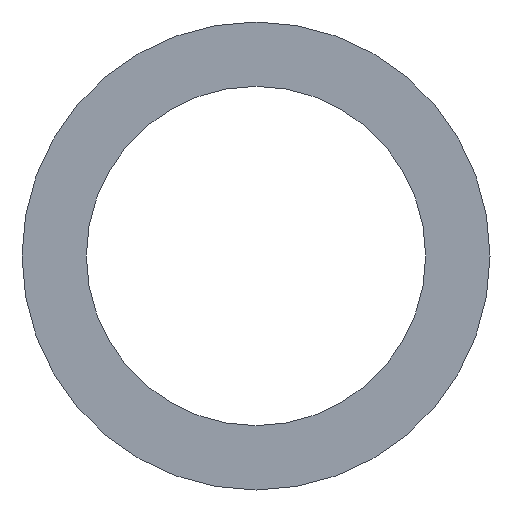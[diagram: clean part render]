
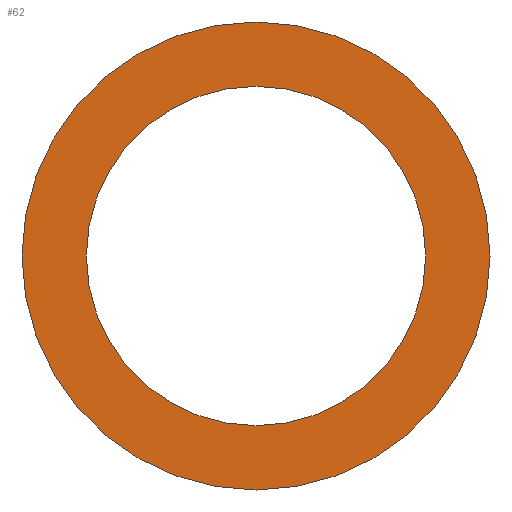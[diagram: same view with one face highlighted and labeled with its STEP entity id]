
A CAD part, front view. The second image highlights one B-rep face of the part: STEP entity #62.
In plain terms, the highlighted planar face has unit normal (0, -1, 0).
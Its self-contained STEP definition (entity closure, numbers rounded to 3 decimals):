
#20=PLANE('',#83);
#26=ORIENTED_EDGE('',*,*,#30,.T.);
#27=ORIENTED_EDGE('',*,*,#32,.F.);
#30=EDGE_CURVE('',#34,#34,#38,.T.);
#32=EDGE_CURVE('',#36,#36,#40,.T.);
#34=VERTEX_POINT('',#106);
#36=VERTEX_POINT('',#111);
#38=CIRCLE('',#78,291.5);
#40=CIRCLE('',#81,402.);
#46=EDGE_LOOP('',(#26));
#47=EDGE_LOOP('',(#27));
#54=FACE_BOUND('',#46,.T.);
#55=FACE_BOUND('',#47,.T.);
#62=ADVANCED_FACE('',(#54,#55),#20,.F.);
#78=AXIS2_PLACEMENT_3D('',#105,#89,#90);
#81=AXIS2_PLACEMENT_3D('',#110,#95,#96);
#83=AXIS2_PLACEMENT_3D('',#114,#99,#100);
#89=DIRECTION('',(0.,1.,0.));
#90=DIRECTION('',(1.,0.,0.));
#95=DIRECTION('',(0.,1.,0.));
#96=DIRECTION('',(1.,0.,0.));
#99=DIRECTION('',(0.,1.,0.));
#100=DIRECTION('',(0.,0.,1.));
#105=CARTESIAN_POINT('',(0.,-1.5,0.));
#106=CARTESIAN_POINT('',(291.5,-1.5,0.));
#110=CARTESIAN_POINT('',(0.,-1.5,0.));
#111=CARTESIAN_POINT('',(402.,-1.5,0.));
#114=CARTESIAN_POINT('',(0.,-1.5,0.));
